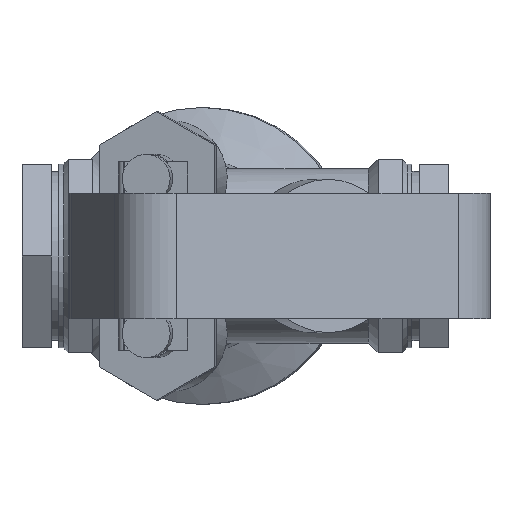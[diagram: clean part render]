
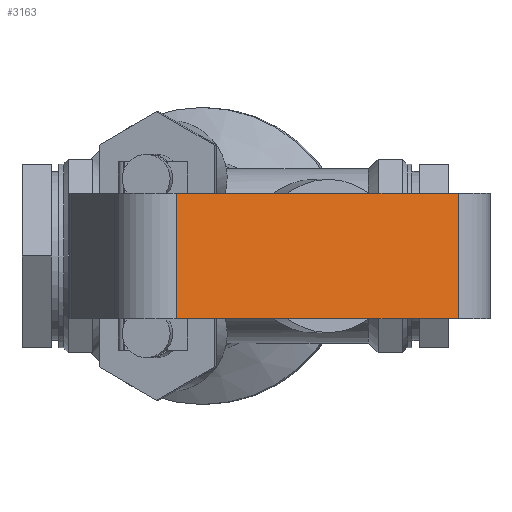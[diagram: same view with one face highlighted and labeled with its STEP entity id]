
A CAD part, front view. The second image highlights one B-rep face of the part: STEP entity #3163.
In plain terms, the highlighted planar face has unit normal (0.342, -0.94, 0).
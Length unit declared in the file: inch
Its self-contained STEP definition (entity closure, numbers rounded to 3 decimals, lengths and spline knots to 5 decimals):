
#112=PLANE('',#3499);
#252=FACE_OUTER_BOUND('',#437,.T.);
#437=EDGE_LOOP('',(#2220,#2221,#2222,#2223));
#630=LINE('',#5219,#880);
#637=LINE('',#5254,#887);
#638=LINE('',#5257,#888);
#639=LINE('',#5258,#889);
#880=VECTOR('',#3978,0.3937);
#887=VECTOR('',#4017,0.3937);
#888=VECTOR('',#4020,0.3937);
#889=VECTOR('',#4021,0.3937);
#1354=VERTEX_POINT('',#5216);
#1355=VERTEX_POINT('',#5218);
#1367=VERTEX_POINT('',#5252);
#1368=VERTEX_POINT('',#5256);
#1683=EDGE_CURVE('',#1354,#1355,#630,.T.);
#1700=EDGE_CURVE('',#1367,#1354,#637,.T.);
#1701=EDGE_CURVE('',#1368,#1367,#638,.T.);
#1702=EDGE_CURVE('',#1368,#1355,#639,.T.);
#2220=ORIENTED_EDGE('',*,*,#1700,.F.);
#2221=ORIENTED_EDGE('',*,*,#1701,.F.);
#2222=ORIENTED_EDGE('',*,*,#1702,.T.);
#2223=ORIENTED_EDGE('',*,*,#1683,.F.);
#3163=ADVANCED_FACE('',(#252),#112,.T.);
#3499=AXIS2_PLACEMENT_3D('',#5255,#4018,#4019);
#3978=DIRECTION('',(-0.94,-0.342,0.));
#4017=DIRECTION('',(0.,0.,-1.));
#4018=DIRECTION('center_axis',(0.342,-0.94,0.));
#4019=DIRECTION('ref_axis',(0.94,0.342,0.));
#4020=DIRECTION('',(0.94,0.342,0.));
#4021=DIRECTION('',(0.,0.,-1.));
#5216=CARTESIAN_POINT('',(2.30458,-4.14894,-0.65));
#5218=CARTESIAN_POINT('',(-0.61024,-5.20985,-0.65));
#5219=CARTESIAN_POINT('',(2.30458,-4.14894,-0.65));
#5252=CARTESIAN_POINT('',(2.30458,-4.14894,0.65));
#5254=CARTESIAN_POINT('',(2.30458,-4.14894,0.));
#5255=CARTESIAN_POINT('Origin',(-0.61024,-5.20985,0.));
#5256=CARTESIAN_POINT('',(-0.61024,-5.20985,0.65));
#5257=CARTESIAN_POINT('',(2.30458,-4.14894,0.65));
#5258=CARTESIAN_POINT('',(-0.61024,-5.20985,0.));
